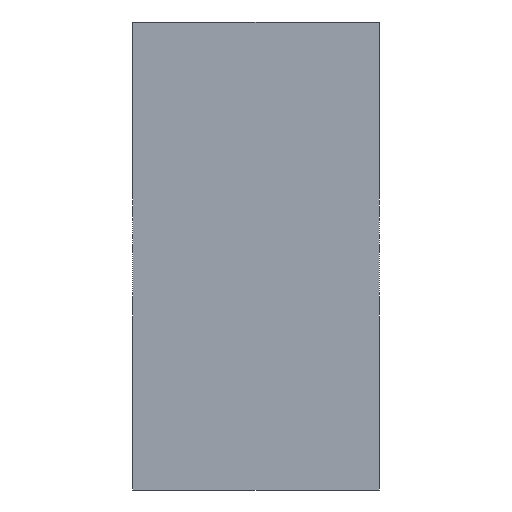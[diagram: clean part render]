
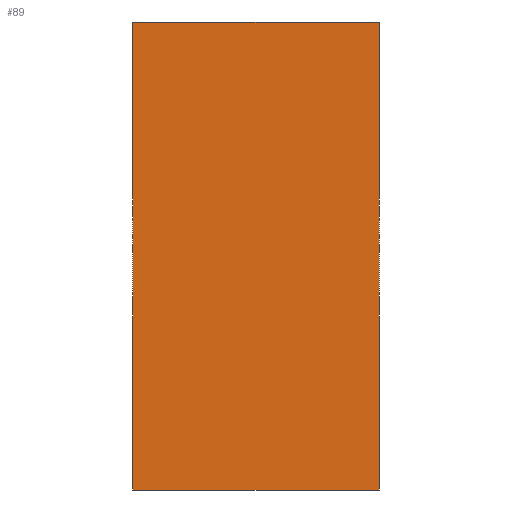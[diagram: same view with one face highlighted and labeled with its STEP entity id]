
A CAD part, front view. The second image highlights one B-rep face of the part: STEP entity #89.
In plain terms, the highlighted planar face has unit normal (0, -1, 0).
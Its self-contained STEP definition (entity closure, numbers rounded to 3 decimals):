
#89 = ADVANCED_FACE( '', ( #134 ), #135, .T. );
#134 = FACE_OUTER_BOUND( '', #194, .T. );
#135 = PLANE( '', #195 );
#194 = EDGE_LOOP( '', ( #324, #325, #326, #327 ) );
#195 = AXIS2_PLACEMENT_3D( '', #328, #329, #330 );
#324 = ORIENTED_EDGE( '', *, *, #527, .T. );
#325 = ORIENTED_EDGE( '', *, *, #528, .F. );
#326 = ORIENTED_EDGE( '', *, *, #529, .T. );
#327 = ORIENTED_EDGE( '', *, *, #525, .T. );
#328 = CARTESIAN_POINT( '', ( 0., 0., -95. ) );
#329 = DIRECTION( '', ( 0., -1., 0. ) );
#330 = DIRECTION( '', ( 0., 0., -1. ) );
#525 = EDGE_CURVE( '', #638, #636, #639, .T. );
#527 = EDGE_CURVE( '', #636, #641, #642, .T. );
#528 = EDGE_CURVE( '', #643, #641, #644, .T. );
#529 = EDGE_CURVE( '', #643, #638, #645, .T. );
#636 = VERTEX_POINT( '', #812 );
#638 = VERTEX_POINT( '', #815 );
#639 = LINE( '', #816, #817 );
#641 = VERTEX_POINT( '', #820 );
#642 = LINE( '', #821, #822 );
#643 = VERTEX_POINT( '', #823 );
#644 = LINE( '', #824, #825 );
#645 = LINE( '', #826, #827 );
#812 = CARTESIAN_POINT( '', ( 100., 0., -95. ) );
#815 = CARTESIAN_POINT( '', ( 0., 0., -95. ) );
#816 = CARTESIAN_POINT( '', ( 0., 0., -95. ) );
#817 = VECTOR( '', #973, 1. );
#820 = CARTESIAN_POINT( '', ( 100., 0., 95. ) );
#821 = CARTESIAN_POINT( '', ( 100., 0., 95. ) );
#822 = VECTOR( '', #975, 1. );
#823 = CARTESIAN_POINT( '', ( 0., 0., 95. ) );
#824 = CARTESIAN_POINT( '', ( 0., 0., 95. ) );
#825 = VECTOR( '', #976, 1. );
#826 = CARTESIAN_POINT( '', ( 0., 0., 95. ) );
#827 = VECTOR( '', #977, 1. );
#973 = DIRECTION( '', ( 1., 0., 0. ) );
#975 = DIRECTION( '', ( 0., 0., 1. ) );
#976 = DIRECTION( '', ( 1., 0., 0. ) );
#977 = DIRECTION( '', ( 0., 0., -1. ) );
